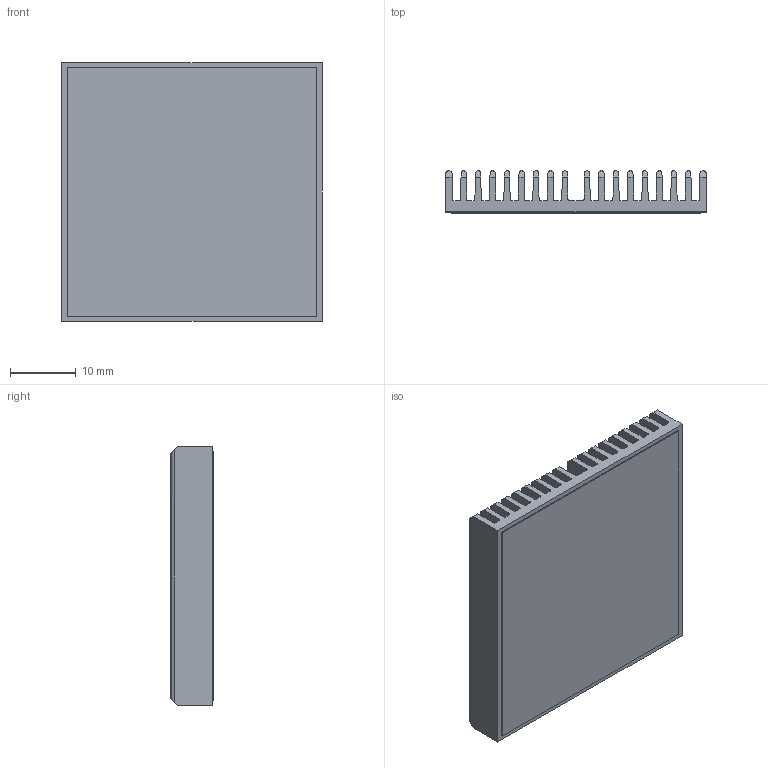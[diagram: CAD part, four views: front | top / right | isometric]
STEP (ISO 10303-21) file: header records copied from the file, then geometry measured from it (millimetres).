
FILE_DESCRIPTION (( 'STEP AP214' ), '1' );
FILE_NAME ('INL40001-6-1.7.STEP', '2023-03-01T17:01:53', ( '' ), ( '' ), 'SwSTEP 2.0', 'SolidWorks 2020', '' );
FILE_SCHEMA (( 'AUTOMOTIVE_DESIGN' ));
Length unit declared in the file: millimetre
Products named in the file (1): INL40001-6-1.7
Bounding box: 39.8 x 6.43 x 39.5 mm (x, y, z)
Volume: 5717.5 mm3; surface area: 12475.1 mm2
Topology: 2 solids, 2 shells, 150 faces, 438 edges, 292 vertices
Faces by surface type: plane 98, cylinder 52
Entity records: 6623 total; most frequent: CARTESIAN_POINT 989, ORIENTED_EDGE 876, DIRECTION 772, EDGE_CURVE 438, VECTOR 334, LINE 334, VERTEX_POINT 292, AXIS2_PLACEMENT_3D 219
